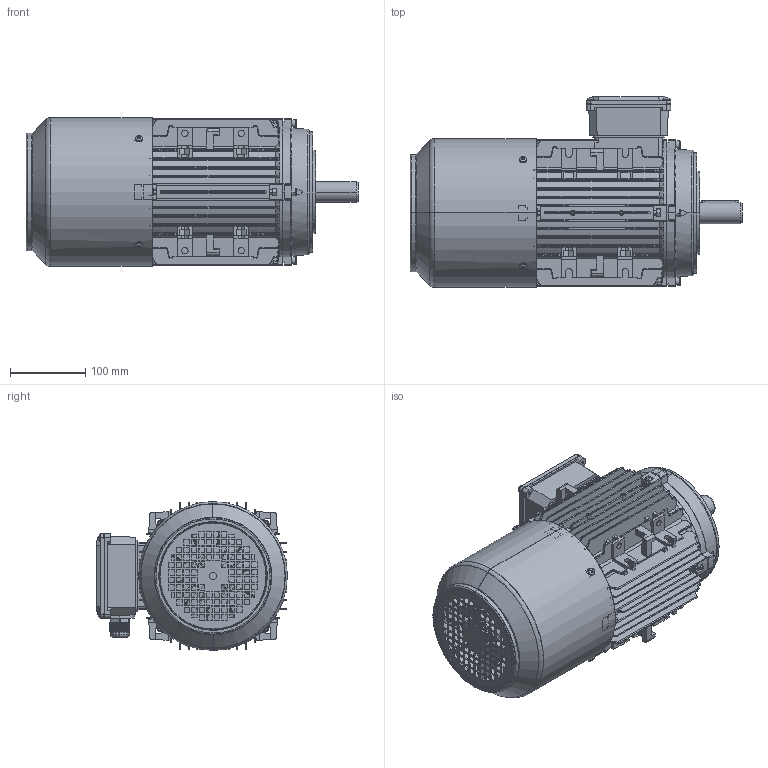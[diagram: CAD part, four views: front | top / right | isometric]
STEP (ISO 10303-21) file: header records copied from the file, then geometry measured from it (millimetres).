
FILE_DESCRIPTION (( 'STEP AP203' ), '1' );
FILE_NAME ('TB100 B14（风罩不带手柄孔）.STEP', '2021-10-23T01:50:02', ( '' ), ( '' ), 'SwSTEP 2.0', 'SolidWorks 2014', '' );
FILE_SCHEMA (( 'CONFIG_CONTROL_DESIGN' ));
Length unit declared in the file: millimetre
Products named in the file (14): Cross recessed thread forming screws GB_GB_CROSS_SCREWS_TYPE138 M5X12-N; 100怢宒瑞珔; TA100B14楊擘1; Hexagon nuts grade C GB_GB_FASTENER_NUT_SNC1 M6-N; TB100綴裔; Plain parallel keys_GB_CONNECTING_PIECE_KEYS_CSK 8X50; TB100风罩（不带手柄孔）; MS132諉盄碟釱; Hexagon socket head cap screws GB_GB_FASTENER_SCREWS_HSHCS M6X30-N; TB100蛌粣; 80-100堤盄蹟杶; TB100 B14（风罩不带手柄孔）; T100儂褲; MS132諉盄碟裔
Assembly tree (35 placements, depth 2):
  TB100 B14（风罩不带手柄孔）
    T100儂褲
    Hexagon nuts grade C GB_GB_FASTENER_NUT_SNC1 M6-N  x8
    Hexagon socket head cap screws GB_GB_FASTENER_SCREWS_HSHCS M6X30-N  x8
    Cross recessed thread forming screws GB_GB_CROSS_SCREWS_TYPE138 M5X12-N  x8
    Plain parallel keys_GB_CONNECTING_PIECE_KEYS_CSK 8X50
    80-100堤盄蹟杶  x2
    TA100B14楊擘1
    MS132諉盄碟釱
    MS132諉盄碟裔
    TB100綴裔
    TB100蛌粣
    100怢宒瑞珔
    TB100风罩（不带手柄孔）
Bounding box: 442 x 254.05 x 198.1 mm (x, y, z)
Volume: 1900684.4 mm3; surface area: 1136255.4 mm2
Topology: 35 solids, 35 shells, 4859 faces, 12966 edges, 8159 vertices
Faces by surface type: plane 2720, cylinder 1094, bspline 537, cone 290, torus 194, sphere 24
Entity records: 146477 total; most frequent: CARTESIAN_POINT 49132, ORIENTED_EDGE 21484, DIRECTION 17692, EDGE_CURVE 10742, VERTEX_POINT 6828, LINE 5990, VECTOR 5990, AXIS2_PLACEMENT_3D 5851
